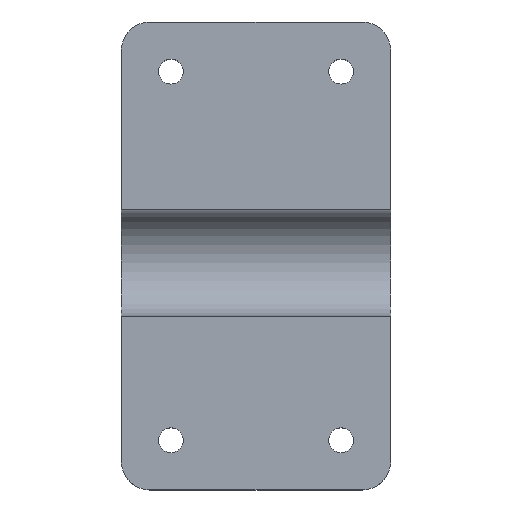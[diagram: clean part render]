
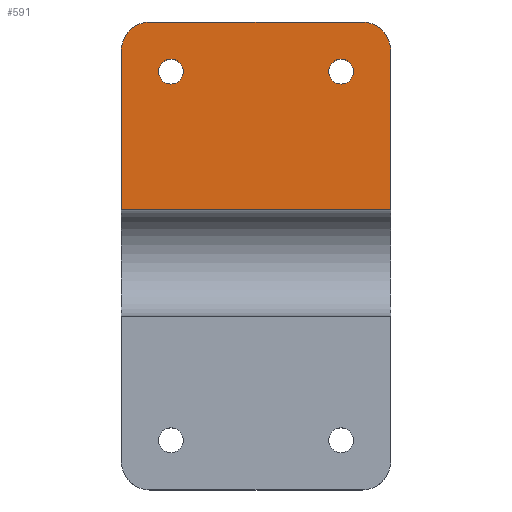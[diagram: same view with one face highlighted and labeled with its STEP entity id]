
A CAD part, top view. The second image highlights one B-rep face of the part: STEP entity #591.
In plain terms, the highlighted planar face has unit normal (0, 0, 1) as drawn and (1, 0, 0) by its records, which use the part's own axes.
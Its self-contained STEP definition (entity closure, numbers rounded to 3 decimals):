
#53=LINE('',#1031,#93);
#59=LINE('',#1048,#99);
#62=LINE('',#1057,#102);
#63=LINE('',#1058,#103);
#93=VECTOR('',#845,10.);
#99=VECTOR('',#863,10.);
#102=VECTOR('',#874,10.);
#103=VECTOR('',#875,10.);
#126=FACE_BOUND('',#203,.T.);
#127=FACE_BOUND('',#204,.T.);
#162=FACE_OUTER_BOUND('',#202,.T.);
#202=EDGE_LOOP('',(#520,#521,#522,#523,#524,#525));
#203=EDGE_LOOP('',(#526));
#204=EDGE_LOOP('',(#527));
#232=CIRCLE('',#649,1.75);
#233=CIRCLE('',#651,1.75);
#244=CIRCLE('',#670,4.);
#249=CIRCLE('',#681,4.);
#278=VERTEX_POINT('',#985);
#279=VERTEX_POINT('',#989);
#286=VERTEX_POINT('',#1019);
#287=VERTEX_POINT('',#1021);
#290=VERTEX_POINT('',#1029);
#294=VERTEX_POINT('',#1045);
#295=VERTEX_POINT('',#1047);
#297=VERTEX_POINT('',#1053);
#341=EDGE_CURVE('',#278,#278,#232,.T.);
#343=EDGE_CURVE('',#279,#279,#233,.T.);
#359=EDGE_CURVE('',#286,#287,#244,.T.);
#364=EDGE_CURVE('',#286,#290,#53,.T.);
#372=EDGE_CURVE('',#295,#294,#59,.T.);
#376=EDGE_CURVE('',#297,#294,#249,.T.);
#377=EDGE_CURVE('',#297,#287,#62,.T.);
#378=EDGE_CURVE('',#290,#295,#63,.T.);
#520=ORIENTED_EDGE('',*,*,#376,.F.);
#521=ORIENTED_EDGE('',*,*,#377,.T.);
#522=ORIENTED_EDGE('',*,*,#359,.F.);
#523=ORIENTED_EDGE('',*,*,#364,.T.);
#524=ORIENTED_EDGE('',*,*,#378,.T.);
#525=ORIENTED_EDGE('',*,*,#372,.T.);
#526=ORIENTED_EDGE('',*,*,#341,.T.);
#527=ORIENTED_EDGE('',*,*,#343,.T.);
#556=PLANE('',#682);
#591=ADVANCED_FACE('',(#162,#126,#127),#556,.F.);
#649=AXIS2_PLACEMENT_3D('',#986,#788,#789);
#651=AXIS2_PLACEMENT_3D('',#990,#793,#794);
#670=AXIS2_PLACEMENT_3D('',#1022,#836,#837);
#681=AXIS2_PLACEMENT_3D('',#1055,#870,#871);
#682=AXIS2_PLACEMENT_3D('',#1056,#872,#873);
#788=DIRECTION('center_axis',(-1.,0.,0.));
#789=DIRECTION('ref_axis',(0.,0.,1.));
#793=DIRECTION('center_axis',(-1.,0.,0.));
#794=DIRECTION('ref_axis',(0.,0.,1.));
#836=DIRECTION('center_axis',(-1.,0.,0.));
#837=DIRECTION('ref_axis',(0.,0.707,0.707));
#845=DIRECTION('',(0.,-1.,0.));
#863=DIRECTION('',(0.,1.,0.));
#870=DIRECTION('center_axis',(-1.,0.,0.));
#871=DIRECTION('ref_axis',(0.,0.707,-0.707));
#872=DIRECTION('center_axis',(-1.,0.,0.));
#873=DIRECTION('ref_axis',(0.,0.,1.));
#874=DIRECTION('',(0.,0.,1.));
#875=DIRECTION('',(0.,0.,-1.));
#985=CARTESIAN_POINT('',(-332.,365.,-155.75));
#986=CARTESIAN_POINT('Origin',(-332.,365.,-154.));
#989=CARTESIAN_POINT('',(-332.,365.,-179.75));
#990=CARTESIAN_POINT('Origin',(-332.,365.,-178.));
#1019=CARTESIAN_POINT('',(-332.,368.,-147.));
#1021=CARTESIAN_POINT('',(-332.,372.,-151.));
#1022=CARTESIAN_POINT('Origin',(-332.,368.,-151.));
#1029=CARTESIAN_POINT('',(-332.,345.509,-147.));
#1031=CARTESIAN_POINT('',(-332.,372.,-147.));
#1045=CARTESIAN_POINT('',(-332.,368.,-185.));
#1047=CARTESIAN_POINT('',(-332.,345.509,-185.));
#1048=CARTESIAN_POINT('',(-332.,306.,-185.));
#1053=CARTESIAN_POINT('',(-332.,372.,-181.));
#1055=CARTESIAN_POINT('Origin',(-332.,368.,-181.));
#1056=CARTESIAN_POINT('Origin',(-332.,339.,-166.));
#1057=CARTESIAN_POINT('',(-332.,372.,-185.));
#1058=CARTESIAN_POINT('',(-332.,345.509,-147.));
